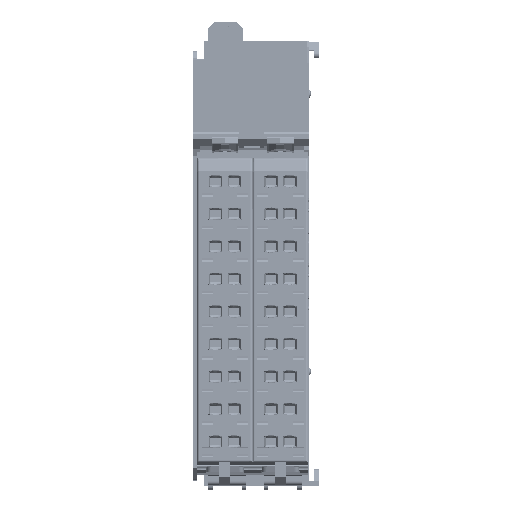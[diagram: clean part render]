
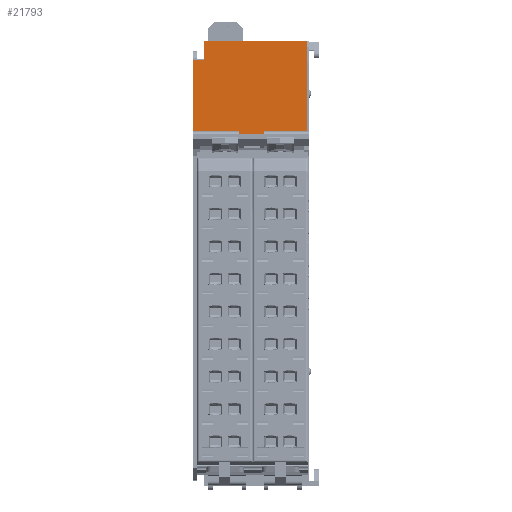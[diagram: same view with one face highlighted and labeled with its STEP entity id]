
A CAD part, top view. The second image highlights one B-rep face of the part: STEP entity #21793.
In plain terms, the highlighted planar face has unit normal (0, 0, 1).
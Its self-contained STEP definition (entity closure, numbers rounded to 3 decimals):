
#2576=DIRECTION('',(1.,0.,0.));
#2577=VECTOR('',#2576,5.7);
#2578=CARTESIAN_POINT('',(-73.14,78.835,-75.165));
#2579=LINE('',#2578,#2577);
#2580=DIRECTION('',(0.,-1.,0.));
#2581=VECTOR('',#2580,0.575);
#2582=CARTESIAN_POINT('',(-73.14,79.41,-75.165));
#2583=LINE('',#2582,#2581);
#2584=DIRECTION('',(0.,-1.,0.));
#2585=VECTOR('',#2584,16.073);
#2586=CARTESIAN_POINT('',(-83.44,95.483,
-75.165));
#2587=LINE('',#2586,#2585);
#2588=DIRECTION('',(0.,1.,0.));
#2589=VECTOR('',#2588,0.575);
#2590=CARTESIAN_POINT('',(-67.44,78.835,-75.165));
#2591=LINE('',#2590,#2589);
#2628=DIRECTION('',(1.,0.,0.));
#2629=VECTOR('',#2628,10.3);
#2630=CARTESIAN_POINT('',(-83.44,79.41,-75.165));
#2631=LINE('',#2630,#2629);
#2640=DIRECTION('',(1.,0.,0.));
#2641=VECTOR('',#2640,2.3);
#2642=CARTESIAN_POINT('',(-83.44,95.483,
-75.165));
#2643=LINE('',#2642,#2641);
#2652=DIRECTION('',(0.,-1.,0.));
#2653=VECTOR('',#2652,4.1);
#2654=CARTESIAN_POINT('',(-81.14,99.583,
-75.165));
#2655=LINE('',#2654,#2653);
#2660=DIRECTION('',(1.,0.,0.));
#2661=VECTOR('',#2660,23.3);
#2662=CARTESIAN_POINT('',(-81.14,99.583,
-75.165));
#2663=LINE('',#2662,#2661);
#2795=DIRECTION('',(0.,-1.,0.));
#2796=VECTOR('',#2795,20.173);
#2797=CARTESIAN_POINT('',(-57.84,99.583,
-75.165));
#2798=LINE('',#2797,#2796);
#2819=DIRECTION('',(1.,0.,0.));
#2820=VECTOR('',#2819,9.6);
#2821=CARTESIAN_POINT('',(-67.44,79.41,-75.165));
#2822=LINE('',#2821,#2820);
#16103=CARTESIAN_POINT('',(-83.44,79.41,-75.165));
#16104=VERTEX_POINT('',#16103);
#16105=CARTESIAN_POINT('',(-83.44,95.483,
-75.165));
#16106=VERTEX_POINT('',#16105);
#16757=CARTESIAN_POINT('',(-67.44,78.835,-75.165));
#16759=VERTEX_POINT('',#16757);
#16763=CARTESIAN_POINT('',(-73.14,78.835,-75.165));
#16764=VERTEX_POINT('',#16763);
#16991=CARTESIAN_POINT('',(-67.44,79.41,-75.165));
#16992=VERTEX_POINT('',#16991);
#17003=CARTESIAN_POINT('',(-73.14,79.41,-75.165));
#17004=VERTEX_POINT('',#17003);
#17007=CARTESIAN_POINT('',(-81.14,95.483,
-75.165));
#17008=VERTEX_POINT('',#17007);
#17009=CARTESIAN_POINT('',(-81.14,99.583,
-75.165));
#17010=VERTEX_POINT('',#17009);
#17011=CARTESIAN_POINT('',(-57.84,99.583,
-75.165));
#17012=VERTEX_POINT('',#17011);
#17013=CARTESIAN_POINT('',(-57.84,79.41,-75.165));
#17014=VERTEX_POINT('',#17013);
#21769=CARTESIAN_POINT('',(-70.64,89.209,
-75.165));
#21770=DIRECTION('',(0.,0.,1.));
#21771=DIRECTION('',(1.,0.,0.));
#21772=AXIS2_PLACEMENT_3D('',#21769,#21770,#21771);
#21773=PLANE('',#21772);
#21774=ORIENTED_EDGE('',*,*,#21747,.F.);
#21776=ORIENTED_EDGE('',*,*,#21775,.F.);
#21778=ORIENTED_EDGE('',*,*,#21777,.F.);
#21779=ORIENTED_EDGE('',*,*,#18448,.F.);
#21781=ORIENTED_EDGE('',*,*,#21780,.T.);
#21783=ORIENTED_EDGE('',*,*,#21782,.F.);
#21785=ORIENTED_EDGE('',*,*,#21784,.T.);
#21787=ORIENTED_EDGE('',*,*,#21786,.T.);
#21789=ORIENTED_EDGE('',*,*,#21788,.F.);
#21790=ORIENTED_EDGE('',*,*,#21758,.F.);
#21791=EDGE_LOOP('',(#21774,#21776,#21778,#21779,#21781,#21783,#21785,#21787,
#21789,#21790));
#21792=FACE_OUTER_BOUND('',#21791,.F.);
#21793=ADVANCED_FACE('',(#21792),#21773,.T.);
#18448=EDGE_CURVE('',#16106,#16104,#2587,.T.);
#21747=EDGE_CURVE('',#16764,#16759,#2579,.T.);
#21758=EDGE_CURVE('',#16759,#16992,#2591,.T.);
#21775=EDGE_CURVE('',#17004,#16764,#2583,.T.);
#21777=EDGE_CURVE('',#16104,#17004,#2631,.T.);
#21780=EDGE_CURVE('',#16106,#17008,#2643,.T.);
#21782=EDGE_CURVE('',#17010,#17008,#2655,.T.);
#21784=EDGE_CURVE('',#17010,#17012,#2663,.T.);
#21786=EDGE_CURVE('',#17012,#17014,#2798,.T.);
#21788=EDGE_CURVE('',#16992,#17014,#2822,.T.);
